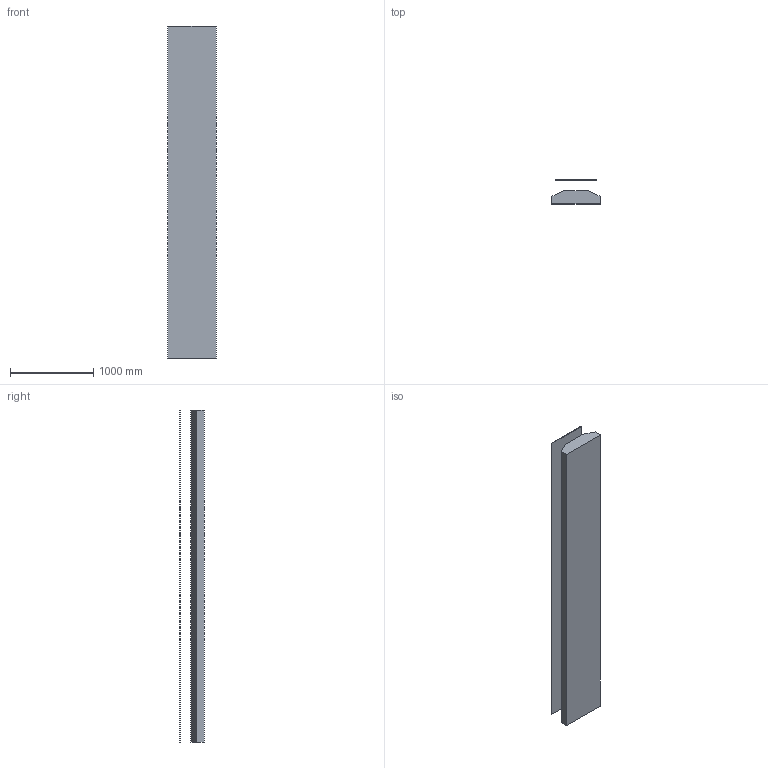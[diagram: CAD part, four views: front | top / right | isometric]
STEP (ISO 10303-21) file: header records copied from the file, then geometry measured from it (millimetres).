
FILE_DESCRIPTION (( 'STEP AP203' ), '1' );
FILE_NAME ('30775.step', '2019-03-14T14:33:11', ( 'PC' ), ( 'Hewlett-Packard Company' ), 'SwSTEP 2.0', 'SolidWorks 2016', '' );
FILE_SCHEMA (( 'CONFIG_CONTROL_DESIGN' ));
Length unit declared in the file: millimetre
Products named in the file (1): 30775
Bounding box: 580 x 293.5 x 4000 mm (x, y, z)
Volume: 344000000 mm3; surface area: 9712198.1 mm2
Topology: 2 solids, 2 shells, 14 faces, 30 edges, 20 vertices
Faces by surface type: plane 14
Entity records: 449 total; most frequent: CARTESIAN_POINT 65, DIRECTION 60, ORIENTED_EDGE 60, VECTOR 30, LINE 30, EDGE_CURVE 30, VERTEX_POINT 20, AXIS2_PLACEMENT_3D 15
